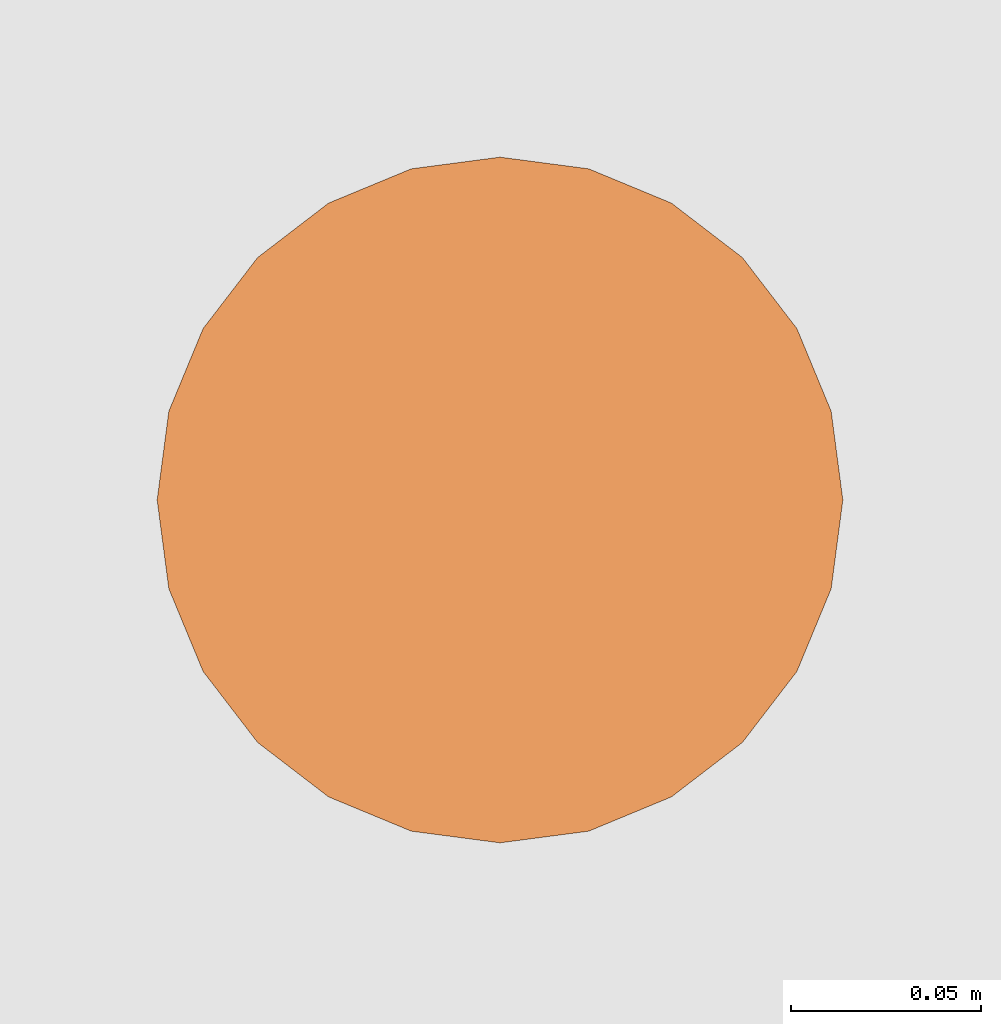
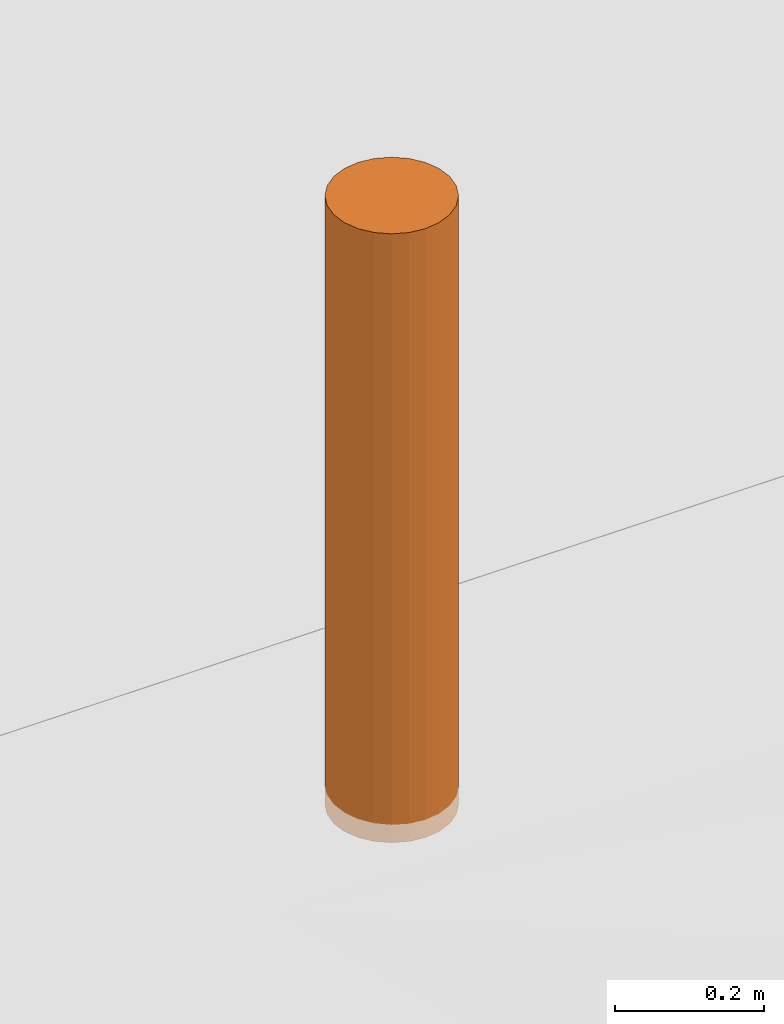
# One storey, part 213 of 246: 1 proxy.
"""IFC2X3 building model written with IfcOpenShell, lengths in millimetres."""

from ifc_helpers import new_model, entity, si_unit, converted_unit, derived_unit, money_unit, direction, frame, origin_with_axes, place, context, subcontext, project, spatial, faceted_brep, material, type_object, element, save


model = new_model("IFC2X3")

# Units and contexts
model_context = context("Model", 3, precision=0.01, world=origin_with_axes(), true_north=direction((0.0, 1.0)))
body_context = subcontext(model_context, "Body", "Model", "MODEL_VIEW")
ifc_project = project(units=[si_unit("LENGTHUNIT", "METRE", prefix="MILLI"), si_unit("AREAUNIT", "SQUARE_METRE"), si_unit("VOLUMEUNIT", "CUBIC_METRE"), converted_unit("PLANEANGLEUNIT", "DEGREE", entity("IfcPlaneAngleMeasure", 0.0174532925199), si_unit("PLANEANGLEUNIT", "RADIAN"), dimensions=[0, 0, 0, 0, 0, 0, 0]), si_unit("SOLIDANGLEUNIT", "STERADIAN"), money_unit("EUR"), converted_unit("TIMEUNIT", "Year", entity("IfcTimeMeasure", 31556926.0), si_unit("TIMEUNIT", "SECOND"), dimensions=[0, 0, 1, 0, 0, 0, 0]), si_unit("MASSUNIT", "GRAM", prefix="KILO"), si_unit("THERMODYNAMICTEMPERATUREUNIT", "DEGREE_CELSIUS"), si_unit("LUMINOUSINTENSITYUNIT", "LUMEN"), si_unit("ENERGYUNIT", "JOULE", prefix="MEGA"), derived_unit("THERMALCONDUCTANCEUNIT", [(si_unit("POWERUNIT", "WATT"), 1), (si_unit("LENGTHUNIT", "METRE"), -1), (si_unit("THERMODYNAMICTEMPERATUREUNIT", "KELVIN"), -1)]), derived_unit("SPECIFICHEATCAPACITYUNIT", [(si_unit("ENERGYUNIT", "JOULE"), 1), (si_unit("MASSUNIT", "GRAM", prefix="KILO"), -1), (si_unit("THERMODYNAMICTEMPERATUREUNIT", "KELVIN"), -1)]), derived_unit("MASSDENSITYUNIT", [(si_unit("MASSUNIT", "GRAM", prefix="KILO"), 1), (si_unit("VOLUMEUNIT", "CUBIC_METRE"), -1)])], contexts=[model_context])

# Site, building, storey
site_placement = place(None, origin_with_axes())
site = spatial("IfcSite", under=ifc_project, at=site_placement, Name="L.Koidula tn 11b", CompositionType="ELEMENT")
building_placement = place(site_placement, origin_with_axes())
building = spatial("IfcBuilding", under=site, at=building_placement, Name="Rakvere Riigigümnaasium", CompositionType="ELEMENT")
storey_placement = place(building_placement, origin_with_axes())
storey = spatial("IfcBuildingStorey", under=building, at=storey_placement, Name="1.korrus 0,00", CompositionType="ELEMENT", Elevation=0.0)

# Proxy
ifc_material = material(Name="Alumiinium (RAL 7026)")
building_element_proxy_type = type_object("IfcBuildingElementProxyType", Name="Alumiinium (RAL 7026) D180", PredefinedType="NOTDEFINED")
proxy_placement = place(storey_placement, frame((40573.5819832, 1486.45341722, -178.172309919), z_axis=(0.0, 0.0, 1.0), x_axis=(1.0, 0.0, 0.0)))
element("IfcBuildingElementProxy", 1, at=proxy_placement, inside=storey, type_object=building_element_proxy_type, material=ifc_material, Name="Pollar valgusti", context=body_context, shape_type="Brep", body=[
    faceted_brep([(-90.0, 0.0, 1000.0), (-90.0, 0.0, 0.0), (-86.933324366, -23.2937140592, 0.0), (-86.933324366, -23.2937140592, 1000.0), (-86.933324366, 23.2937140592, 1000.0), (-86.933324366, 23.2937140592, 0.0), (-77.9422863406, 45.0, 0.0), (-63.6396103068, 63.6396103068, 0.0), (-45.0, 77.9422863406, 0.0), (-23.2937140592, 86.933324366, 0.0), (0.0, 90.0, 0.0), (23.2937140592, 86.933324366, 0.0), (45.0, 77.9422863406, 0.0), (63.6396103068, 63.6396103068, 0.0), (77.9422863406, 45.0, 0.0), (86.933324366, 23.2937140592, 0.0), (90.0, 0.0, 0.0), (86.933324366, -23.2937140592, 0.0), (77.9422863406, -45.0, 0.0), (63.6396103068, -63.6396103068, 0.0), (45.0, -77.9422863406, 0.0), (23.2937140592, -86.933324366, 0.0), (0.0, -90.0, 0.0), (-23.2937140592, -86.933324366, 0.0), (-45.0, -77.9422863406, 0.0), (-63.6396103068, -63.6396103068, 0.0), (-77.9422863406, -45.0, 0.0), (-77.9422863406, -45.0, 1000.0), (-63.6396103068, -63.6396103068, 1000.0), (-45.0, -77.9422863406, 1000.0), (-23.2937140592, -86.933324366, 1000.0), (0.0, -90.0, 1000.0), (23.2937140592, -86.933324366, 1000.0), (45.0, -77.9422863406, 1000.0), (63.6396103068, -63.6396103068, 1000.0), (77.9422863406, -45.0, 1000.0), (86.933324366, -23.2937140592, 1000.0), (90.0, 0.0, 1000.0), (86.933324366, 23.2937140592, 1000.0), (77.9422863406, 45.0, 1000.0), (63.6396103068, 63.6396103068, 1000.0), (45.0, 77.9422863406, 1000.0), (23.2937140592, 86.933324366, 1000.0), (0.0, 90.0, 1000.0), (-23.2937140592, 86.933324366, 1000.0), (-45.0, 77.9422863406, 1000.0), (-63.6396103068, 63.6396103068, 1000.0), (-77.9422863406, 45.0, 1000.0)], [[[0, 1, 2, 3]], [[4, 5, 1, 0]], [[2, 1, 5, 6, 7, 8, 9, 10, 11, 12, 13, 14, 15, 16, 17, 18, 19, 20, 21, 22, 23, 24, 25, 26]], [[3, 2, 26, 27]], [[4, 0, 3, 27, 28, 29, 30, 31, 32, 33, 34, 35, 36, 37, 38, 39, 40, 41, 42, 43, 44, 45, 46, 47]], [[47, 6, 5, 4]], [[46, 7, 6, 47]], [[45, 8, 7, 46]], [[44, 9, 8, 45]], [[43, 10, 9, 44]], [[42, 11, 10, 43]], [[41, 12, 11, 42]], [[40, 13, 12, 41]], [[39, 14, 13, 40]], [[38, 15, 14, 39]], [[37, 16, 15, 38]], [[36, 17, 16, 37]], [[35, 18, 17, 36]], [[34, 19, 18, 35]], [[33, 20, 19, 34]], [[32, 21, 20, 33]], [[31, 22, 21, 32]], [[30, 23, 22, 31]], [[29, 24, 23, 30]], [[28, 25, 24, 29]], [[27, 26, 25, 28]]]),
])

save(model, "model.ifc")
